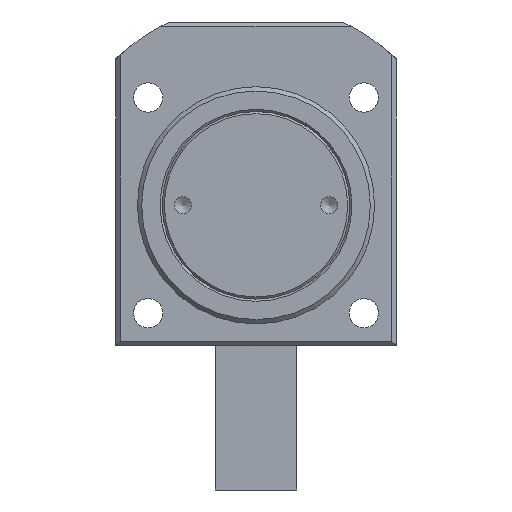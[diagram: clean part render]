
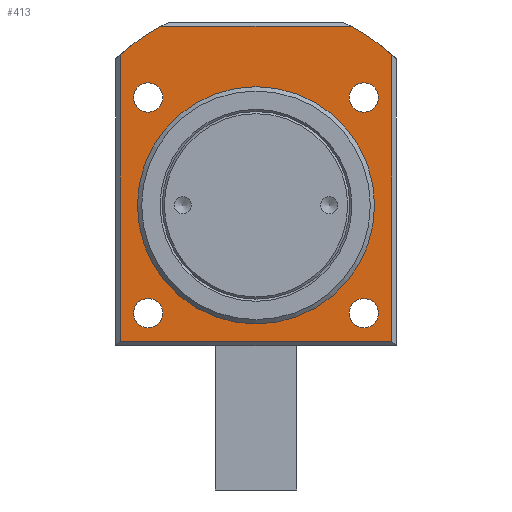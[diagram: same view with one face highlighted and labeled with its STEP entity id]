
A CAD part, front view. The second image highlights one B-rep face of the part: STEP entity #413.
In plain terms, the highlighted planar face has unit normal (0, -1, 0).
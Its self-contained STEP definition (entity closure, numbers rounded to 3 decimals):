
#413=ADVANCED_FACE('',(#1270,#1271,#1272,#1273,#1274,#1275),#624,.T.);
#624=PLANE('',#3601);
#759=LINE('',#5172,#1017);
#760=LINE('',#5174,#1018);
#761=LINE('',#5176,#1019);
#762=LINE('',#5177,#1020);
#1017=VECTOR('',#4094,1.);
#1018=VECTOR('',#4095,1.);
#1019=VECTOR('',#4096,1.);
#1020=VECTOR('',#4097,1.);
#1270=FACE_BOUND('',#1400,.T.);
#1271=FACE_BOUND('',#1401,.T.);
#1272=FACE_BOUND('',#1402,.T.);
#1273=FACE_BOUND('',#1403,.T.);
#1274=FACE_BOUND('',#1404,.T.);
#1275=FACE_BOUND('',#1405,.T.);
#1400=EDGE_LOOP('',(#1729));
#1401=EDGE_LOOP('',(#1730));
#1402=EDGE_LOOP('',(#1731));
#1403=EDGE_LOOP('',(#1732));
#1404=EDGE_LOOP('',(#1733));
#1405=EDGE_LOOP('',(#1734,#1735,#1736,#1737,#1738,#1739));
#1729=ORIENTED_EDGE('',*,*,#2930,.F.);
#1730=ORIENTED_EDGE('',*,*,#2932,.F.);
#1731=ORIENTED_EDGE('',*,*,#2934,.F.);
#1732=ORIENTED_EDGE('',*,*,#2936,.F.);
#1733=ORIENTED_EDGE('',*,*,#2960,.F.);
#1734=ORIENTED_EDGE('',*,*,#2945,.T.);
#1735=ORIENTED_EDGE('',*,*,#2961,.T.);
#1736=ORIENTED_EDGE('',*,*,#2962,.T.);
#1737=ORIENTED_EDGE('',*,*,#2963,.T.);
#1738=ORIENTED_EDGE('',*,*,#2954,.T.);
#1739=ORIENTED_EDGE('',*,*,#2964,.T.);
#2599=VERTEX_POINT('',#5110);
#2601=VERTEX_POINT('',#5115);
#2603=VERTEX_POINT('',#5120);
#2605=VERTEX_POINT('',#5125);
#2611=VERTEX_POINT('',#5141);
#2612=VERTEX_POINT('',#5143);
#2617=VERTEX_POINT('',#5158);
#2618=VERTEX_POINT('',#5160);
#2621=VERTEX_POINT('',#5171);
#2622=VERTEX_POINT('',#5173);
#2623=VERTEX_POINT('',#5175);
#2930=EDGE_CURVE('',#2599,#2599,#3375,.T.);
#2932=EDGE_CURVE('',#2601,#2601,#3377,.T.);
#2934=EDGE_CURVE('',#2603,#2603,#3379,.T.);
#2936=EDGE_CURVE('',#2605,#2605,#3381,.T.);
#2945=EDGE_CURVE('',#2612,#2611,#3383,.T.);
#2954=EDGE_CURVE('',#2618,#2617,#3386,.T.);
#2960=EDGE_CURVE('',#2621,#2621,#3387,.T.);
#2961=EDGE_CURVE('',#2611,#2622,#759,.T.);
#2962=EDGE_CURVE('',#2622,#2623,#760,.T.);
#2963=EDGE_CURVE('',#2623,#2618,#761,.T.);
#2964=EDGE_CURVE('',#2617,#2612,#762,.T.);
#3375=CIRCLE('',#3571,3.4);
#3377=CIRCLE('',#3574,3.4);
#3379=CIRCLE('',#3577,3.4);
#3381=CIRCLE('',#3580,3.4);
#3383=CIRCLE('',#3587,47.);
#3386=CIRCLE('',#3595,47.);
#3387=CIRCLE('',#3600,27.5);
#3571=AXIS2_PLACEMENT_3D('',#5109,#4024,#4025);
#3574=AXIS2_PLACEMENT_3D('',#5114,#4030,#4031);
#3577=AXIS2_PLACEMENT_3D('',#5119,#4036,#4037);
#3580=AXIS2_PLACEMENT_3D('',#5124,#4042,#4043);
#3587=AXIS2_PLACEMENT_3D('',#5142,#4060,#4061);
#3595=AXIS2_PLACEMENT_3D('',#5159,#4079,#4080);
#3600=AXIS2_PLACEMENT_3D('',#5170,#4092,#4093);
#3601=AXIS2_PLACEMENT_3D('',#5178,#4098,#4099);
#4024=DIRECTION('',(0.,-1.,0.));
#4025=DIRECTION('',(0.,0.,-1.));
#4030=DIRECTION('',(0.,-1.,0.));
#4031=DIRECTION('',(0.,0.,-1.));
#4036=DIRECTION('',(0.,-1.,0.));
#4037=DIRECTION('',(0.,0.,-1.));
#4042=DIRECTION('',(0.,-1.,0.));
#4043=DIRECTION('',(0.,0.,-1.));
#4060=DIRECTION('',(0.,-1.,0.));
#4061=DIRECTION('',(0.,0.,-1.));
#4079=DIRECTION('',(0.,-1.,0.));
#4080=DIRECTION('',(0.,0.,-1.));
#4092=DIRECTION('',(0.,-1.,0.));
#4093=DIRECTION('',(0.,0.,-1.));
#4094=DIRECTION('',(0.,0.,-1.));
#4095=DIRECTION('',(1.,0.,0.));
#4096=DIRECTION('',(0.,0.,1.));
#4097=DIRECTION('',(-1.,0.,0.));
#4098=DIRECTION('',(0.,-1.,0.));
#4099=DIRECTION('',(0.,0.,-1.));
#5109=CARTESIAN_POINT('',(-25.,53.,25.));
#5110=CARTESIAN_POINT('',(-25.,53.,21.6));
#5114=CARTESIAN_POINT('',(25.,53.,25.));
#5115=CARTESIAN_POINT('',(25.,53.,21.6));
#5119=CARTESIAN_POINT('',(25.,53.,-25.));
#5120=CARTESIAN_POINT('',(25.,53.,-28.4));
#5124=CARTESIAN_POINT('',(-25.,53.,-25.));
#5125=CARTESIAN_POINT('',(-25.,53.,-28.4));
#5141=CARTESIAN_POINT('',(-31.5,53.,34.882));
#5142=CARTESIAN_POINT('',(0.,53.,0.));
#5143=CARTESIAN_POINT('',(-22.062,53.,41.5));
#5158=CARTESIAN_POINT('',(22.062,53.,41.5));
#5159=CARTESIAN_POINT('',(0.,53.,0.));
#5160=CARTESIAN_POINT('',(31.5,53.,34.882));
#5170=CARTESIAN_POINT('',(0.,53.,0.));
#5171=CARTESIAN_POINT('',(0.,53.,-27.5));
#5172=CARTESIAN_POINT('',(-31.5,53.,-32.5));
#5173=CARTESIAN_POINT('',(-31.5,53.,-31.5));
#5174=CARTESIAN_POINT('',(32.5,53.,-31.5));
#5175=CARTESIAN_POINT('',(31.5,53.,-31.5));
#5176=CARTESIAN_POINT('',(31.5,53.,33.952));
#5177=CARTESIAN_POINT('',(-20.069,53.,41.5));
#5178=CARTESIAN_POINT('',(-74.98,53.,0.));
